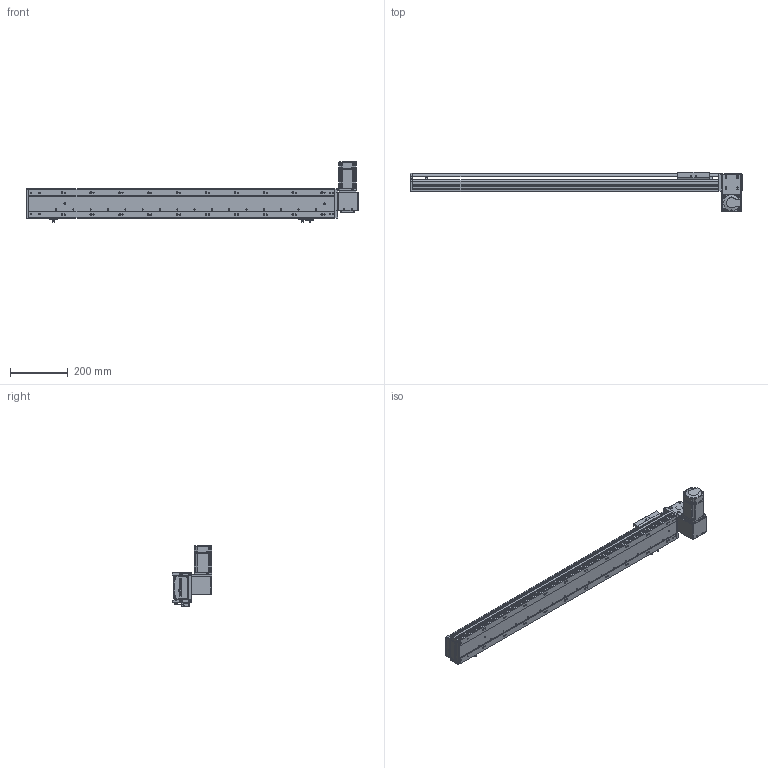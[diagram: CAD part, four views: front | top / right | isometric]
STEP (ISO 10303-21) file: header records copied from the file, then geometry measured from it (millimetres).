
FILE_DESCRIPTION (( 'STEP AP203' ), '1' );
FILE_NAME ('RY100-T-300-DR.SLDASM_850.step', '2024-04-25T03:22:42', ( '盈信电脑' ), ( '东莞市道滘镇水果街19号' ), 'SwSTEP 2.0', 'SolidWorks 2016', '' );
FILE_SCHEMA (( 'CONFIG_CONTROL_DESIGN' ));
Length unit declared in the file: millimetre
Products named in the file (16): RY100-T翋肮祭謫裔啣; 侂狟200W萇儂; RY100-T-300-RK倰第菁釱_850; RY100-T肮祭謫翋盓傅釱; RY100-T-300-DR.SLDASM_850; 滅袉蝶18-10; RY80-T肮祭謫狟殏俋欶; 覜茼ん672; 1; RY100綴裔啣; RY100-T翋肮祭謫裔啣2; RY100-T左右折电机安装板; RY100-T-300-RK倰第奻裔_850; RY100-T肮祭謫臏賑輸; RY100-T粣創揤踡裔; RY100俋离覜茼え
Assembly tree (19 placements, depth 3):
  RY100-T-300-DR.SLDASM_850
    RY100-T-300-RK倰第菁釱_850
    RY100-T-300-RK倰第奻裔_850
    RY100-T肮祭謫臏賑輸
    RY100綴裔啣
    覜茼ん672  x3
    RY100俋离覜茼え
    RY100-T肮祭謫翋盓傅釱
    RY100-T左右折电机安装板
    侂狟200W萇儂
      1
    RY100-T粣創揤踡裔
    滅袉蝶18-10  x2
    RY100-T翋肮祭謫裔啣2  x2
    RY100-T翋肮祭謫裔啣
    RY80-T肮祭謫狟殏俋欶
Bounding box: 1150 x 135.5 x 209.7 mm (x, y, z)
Volume: 2398386.1 mm3; surface area: 989080.5 mm2
Topology: 18 solids, 18 shells, 2279 faces, 6358 edges, 4132 vertices
Faces by surface type: plane 1225, cylinder 839, cone 137, bspline 78
Entity records: 73525 total; most frequent: CARTESIAN_POINT 17926, ORIENTED_EDGE 11452, DIRECTION 10874, EDGE_CURVE 5726, VERTEX_POINT 3768, VECTOR 3664, LINE 3664, AXIS2_PLACEMENT_3D 3605
